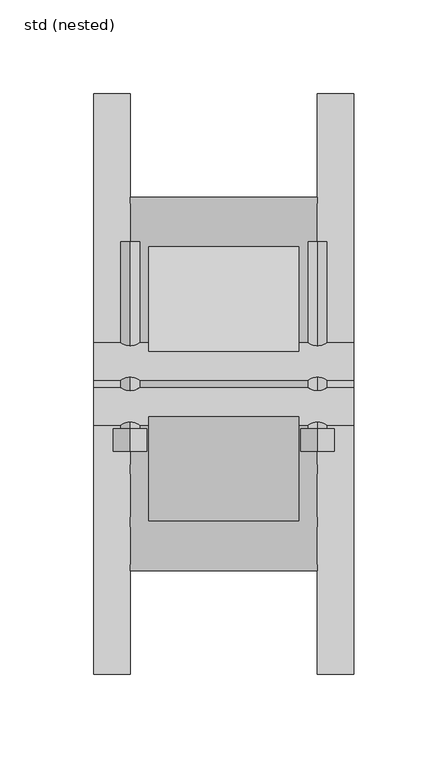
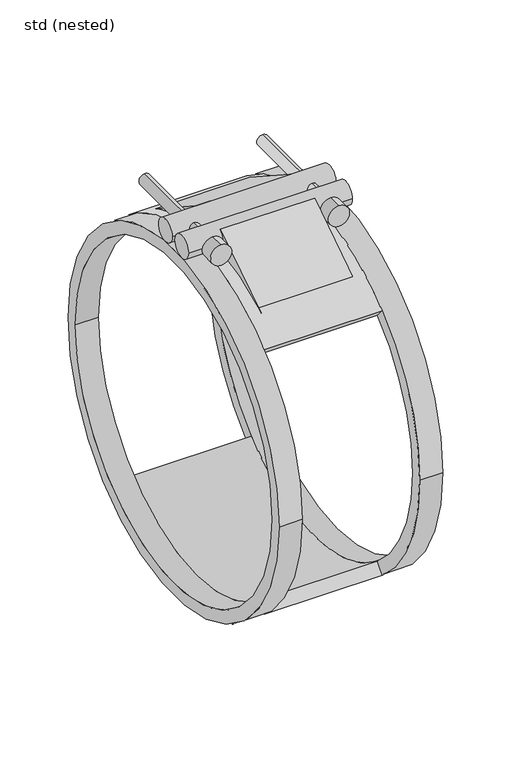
"""IFC4 building model written with IfcOpenShell, lengths in millimetres: pipe fitting geometry, ZZZ_do not use_PIF_ST_UN_GM-X universal claw_ACO : std (nested)."""

from ifc_helpers import new_model, si_unit, point, frame, frame_2d, origin, origin_2d, place, context, project, spatial, polyline, circle_curve, trimmed, segment, composite_curve, outline, extrude, source, transform, mapped, element, save
from ifc_brep_helpers import plane_surface, cylinder_surface, revolved_surface, advanced_brep


def std_nested_6f421a5c(model_context):
    return source(origin(), model_context, "Body", "SolidModel", [
        extrude(outline(composite_curve([segment(trimmed(circle_curve(frame_2d((165.0, 50.0)), 9.0), [point((156.0, 50.0))], [point((174.0, 50.0))], False, "CARTESIAN"), True, "CONTINUOUS"), segment(trimmed(circle_curve(frame_2d((165.0, 50.0)), 9.0), [point((174.0, 50.0))], [point((156.0, 50.0))], False, "CARTESIAN"), True, "CONTINUOUS")], self_intersect=False)), frame((0.0, -36.0, 0.0), z_axis=(0.0, 1.0, 0.0), x_axis=(0.0, 0.0, 1.0)), (0.0, 0.0, 1.0), 12.0),
        extrude(outline(composite_curve([segment(trimmed(circle_curve(frame_2d((165.0, 50.0)), 5.0), [point((170.0, 50.0))], [point((160.0, 50.0))], False, "CARTESIAN"), True, "CONTINUOUS"), segment(trimmed(circle_curve(frame_2d((165.0, 50.0)), 5.0), [point((160.0, 50.0))], [point((170.0, 50.0))], False, "CARTESIAN"), True, "CONTINUOUS")], self_intersect=False)), frame((0.0, -24.0, 0.0), z_axis=(0.0, 1.0, 0.0), x_axis=(0.0, 0.0, 1.0)), (0.0, 0.0, 1.0), 100.0),
        advanced_brep(
        [(-50.0, 155.0, 0.0), (-50.0, 99.6320795, 118.7368887), (-50.0, 92.6256946, 110.3870043), (-50.0, 144.1, 0.0), (-50.0, 92.6256946, -110.3870043), (-50.0, 99.6320795, -118.7368887), (-50.0, -99.6320795, 118.7368887), (-50.0, -155.0, 0.0), (-50.0, -99.6320795, -118.7368887), (-50.0, -92.6256946, -110.3870043), (-50.0, -144.1, 0.0), (-50.0, -92.6256946, 110.3870043), (-69.5, -155.0, 0.0), (-69.5, 155.0, 0.0), (-69.5, -144.1, 0.0), (-69.5, 144.1, 0.0), (69.5, -155.0, 0.0), (69.5, 155.0, 0.0), (69.5, -144.1, 0.0), (69.5, 144.1, 0.0), (50.0, 144.1, 0.0), (50.0, 92.6256946, 110.3870043), (50.0, 99.6320795, 118.7368887), (50.0, 155.0, 0.0), (50.0, 99.6320795, -118.7368887), (50.0, 92.6256946, -110.3870043), (50.0, -92.6256946, 110.3870043), (50.0, -144.1, 0.0), (50.0, -92.6256946, -110.3870043), (50.0, -99.6320795, -118.7368887), (50.0, -155.0, 0.0), (50.0, -99.6320795, 118.7368887)],
        [
            (0, 1, circle_curve(frame((-50.0, 0.0, 0.0), z_axis=(1.0, 0.0, 0.0), x_axis=(0.0, 1.0, 0.0)), 155.0)),
            (1, 2),
            (2, 3, circle_curve(frame((-50.0, 0.0, 0.0), z_axis=(-1.0, 0.0, 0.0), x_axis=(0.0, 1.0, 0.0)), 144.1)),
            (3, 4, circle_curve(frame((-50.0, 0.0, 0.0), z_axis=(-1.0, 0.0, 0.0), x_axis=(0.0, 1.0, 0.0)), 144.1)),
            (4, 5),
            (5, 0, circle_curve(frame((-50.0, 0.0, 0.0), z_axis=(1.0, 0.0, 0.0), x_axis=(0.0, 1.0, 0.0)), 155.0)),
            (6, 7, circle_curve(frame((-50.0, 0.0, 0.0), z_axis=(1.0, 0.0, 0.0), x_axis=(0.0, 1.0, 0.0)), 155.0)),
            (7, 8, circle_curve(frame((-50.0, 0.0, 0.0), z_axis=(1.0, 0.0, 0.0), x_axis=(0.0, 1.0, 0.0)), 155.0)),
            (8, 9),
            (9, 10, circle_curve(frame((-50.0, 0.0, 0.0), z_axis=(-1.0, 0.0, 0.0), x_axis=(0.0, 1.0, 0.0)), 144.1)),
            (10, 11, circle_curve(frame((-50.0, 0.0, 0.0), z_axis=(-1.0, 0.0, 0.0), x_axis=(0.0, 1.0, 0.0)), 144.1)),
            (11, 6),
            (12, 13, circle_curve(frame((-69.5, 0.0, 0.0), z_axis=(-1.0, 0.0, 0.0), x_axis=(0.0, 1.0, 0.0)), 155.0)),
            (13, 12, circle_curve(frame((-69.5, 0.0, 0.0), z_axis=(-1.0, 0.0, 0.0), x_axis=(0.0, 1.0, 0.0)), 155.0)),
            (14, 15, circle_curve(frame((-69.5, 0.0, 0.0), z_axis=(1.0, 0.0, 0.0), x_axis=(0.0, 1.0, 0.0)), 144.1)),
            (15, 14, circle_curve(frame((-69.5, 0.0, 0.0), z_axis=(1.0, 0.0, 0.0), x_axis=(0.0, 1.0, 0.0)), 144.1)),
            (13, 0),
            (5, 8, circle_curve(frame((-50.0, 0.0, 0.0), z_axis=(-1.0, 0.0, 0.0), x_axis=(0.0, 1.0, 0.0)), 155.0)),
            (7, 12),
            (6, 1, circle_curve(frame((-50.0, 0.0, 0.0), z_axis=(-1.0, 0.0, 0.0), x_axis=(0.0, 1.0, 0.0)), 155.0)),
            (15, 3),
            (2, 11, circle_curve(frame((-50.0, 0.0, 0.0), z_axis=(1.0, 0.0, 0.0), x_axis=(0.0, 1.0, 0.0)), 144.1)),
            (10, 14),
            (9, 4, circle_curve(frame((-50.0, 0.0, 0.0), z_axis=(1.0, 0.0, 0.0), x_axis=(0.0, 1.0, 0.0)), 144.1)),
            (16, 17, circle_curve(frame((69.5, 0.0, 0.0), z_axis=(1.0, 0.0, 0.0), x_axis=(0.0, 1.0, 0.0)), 155.0)),
            (17, 16, circle_curve(frame((69.5, 0.0, 0.0), z_axis=(1.0, 0.0, 0.0), x_axis=(0.0, 1.0, 0.0)), 155.0)),
            (18, 19, circle_curve(frame((69.5, 0.0, 0.0), z_axis=(-1.0, 0.0, 0.0), x_axis=(0.0, 1.0, 0.0)), 144.1)),
            (19, 18, circle_curve(frame((69.5, 0.0, 0.0), z_axis=(-1.0, 0.0, 0.0), x_axis=(0.0, 1.0, 0.0)), 144.1)),
            (20, 21, circle_curve(frame((50.0, 0.0, 0.0), z_axis=(1.0, 0.0, 0.0), x_axis=(0.0, 1.0, 0.0)), 144.1)),
            (21, 22),
            (22, 23, circle_curve(frame((50.0, 0.0, 0.0), z_axis=(-1.0, 0.0, 0.0), x_axis=(0.0, 1.0, 0.0)), 155.0)),
            (23, 24, circle_curve(frame((50.0, 0.0, 0.0), z_axis=(-1.0, 0.0, 0.0), x_axis=(0.0, 1.0, 0.0)), 155.0)),
            (24, 25),
            (25, 20, circle_curve(frame((50.0, 0.0, 0.0), z_axis=(1.0, 0.0, 0.0), x_axis=(0.0, 1.0, 0.0)), 144.1)),
            (26, 27, circle_curve(frame((50.0, 0.0, 0.0), z_axis=(1.0, 0.0, 0.0), x_axis=(0.0, 1.0, 0.0)), 144.1)),
            (27, 28, circle_curve(frame((50.0, 0.0, 0.0), z_axis=(1.0, 0.0, 0.0), x_axis=(0.0, 1.0, 0.0)), 144.1)),
            (28, 29),
            (29, 30, circle_curve(frame((50.0, 0.0, 0.0), z_axis=(-1.0, 0.0, 0.0), x_axis=(0.0, 1.0, 0.0)), 155.0)),
            (30, 31, circle_curve(frame((50.0, 0.0, 0.0), z_axis=(-1.0, 0.0, 0.0), x_axis=(0.0, 1.0, 0.0)), 155.0)),
            (31, 26),
            (18, 27),
            (26, 21, circle_curve(frame((50.0, 0.0, 0.0), z_axis=(-1.0, 0.0, 0.0), x_axis=(0.0, 1.0, 0.0)), 144.1)),
            (20, 19),
            (25, 28, circle_curve(frame((50.0, 0.0, 0.0), z_axis=(-1.0, 0.0, 0.0), x_axis=(0.0, 1.0, 0.0)), 144.1)),
            (16, 30),
            (29, 24, circle_curve(frame((50.0, 0.0, 0.0), z_axis=(1.0, 0.0, 0.0), x_axis=(0.0, 1.0, 0.0)), 155.0)),
            (23, 17),
            (22, 31, circle_curve(frame((50.0, 0.0, 0.0), z_axis=(1.0, 0.0, 0.0), x_axis=(0.0, 1.0, 0.0)), 155.0)),
            (21, 2),
            (1, 22),
            (31, 6),
            (11, 26),
            (24, 5),
            (4, 25),
            (28, 9),
            (8, 29),
        ],
        [
            plane_surface(frame((-50.0, 155.0, 0.0), z_axis=(1.0, 0.0, 0.0), x_axis=(0.0, 0.0, 1.0))),
            plane_surface(frame((-69.5, 155.0, 0.0), z_axis=(-1.0, 0.0, 0.0), x_axis=(0.0, 0.0, -1.0))),
            cylinder_surface(frame((-69.5, 0.0, 0.0), z_axis=(1.0, 0.0, 0.0), x_axis=(0.0, 1.0, 0.0)), 155.0),
            revolved_surface(polyline([(-69.5, 144.1, 0.0), (-50.0, 144.1, 0.0)]), (0.0, 0.0, 0.0), (-1.0, 0.0, 0.0)),
            plane_surface(frame((69.5, 144.1, 0.0), z_axis=(1.0, 0.0, 0.0), x_axis=(0.0, 0.0, -1.0))),
            plane_surface(frame((50.0, 144.1, 0.0), z_axis=(-1.0, 0.0, 0.0), x_axis=(0.0, 0.0, 1.0))),
            revolved_surface(polyline([(50.0, 144.1, 0.0), (69.5, 144.1, 0.0)]), (50.0, 0.0, 0.0), (-1.0, 0.0, 0.0)),
            cylinder_surface(frame((0.0, 0.0, 0.0), z_axis=(1.0, 0.0, 0.0), x_axis=(0.0, 1.0, 0.0)), 155.0),
            plane_surface(frame((-91.0901199, 0.0, 0.0), z_axis=(0.0, 0.7660444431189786, -0.6427876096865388), x_axis=(0.0, 0.6427876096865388, 0.7660444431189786))),
            plane_surface(frame((-91.0901199, 0.0, 0.0), z_axis=(0.0, -0.7660444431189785, -0.6427876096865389), x_axis=(0.0, -0.6427876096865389, 0.7660444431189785))),
            revolved_surface(polyline([(-50.0, 92.62569455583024, 110.3870042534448), (49.999999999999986, 92.62569455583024, 110.3870042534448)]), (-91.0901199, 0.0, 0.0), (-1.0, 0.0, 0.0)),
            cylinder_surface(frame((-91.0901199, 0.0, 0.0), z_axis=(-1.0, 0.0, 0.0), x_axis=(0.0, 0.6427876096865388, 0.7660444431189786)), 155.0),
            plane_surface(frame((-91.0901199, 0.0, 0.0), z_axis=(0.0, 0.7660444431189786, 0.6427876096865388), x_axis=(0.0, 0.6427876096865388, -0.7660444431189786))),
            plane_surface(frame((-91.0901199, 0.0, 0.0), z_axis=(0.0, -0.7660444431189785, 0.6427876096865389), x_axis=(0.0, -0.6427876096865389, -0.7660444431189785))),
            revolved_surface(polyline([(49.999999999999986, 92.62569455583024, -110.3870042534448), (-50.0, 92.62569455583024, -110.3870042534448)]), (-91.0901199, 0.0, 0.0), (1.0, 0.0, 0.0)),
            cylinder_surface(frame((-91.0901199, 0.0, 0.0), z_axis=(1.0, 0.0, 0.0), x_axis=(0.0, 0.6427876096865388, -0.7660444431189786)), 155.0),
        ],
        [
            (0, [[1, 2, 3, 4, 5, 6]]),
            (0, [[7, 8, 9, 10, 11, 12]]),
            (1, [[13, 14], [15, 16]]),
            (2, [[-14, 17, -6, 18, -8, 19]]),
            (2, [[-13, -19, -7, 20, -1, -17]]),
            (3, [[-16, 21, -3, 22, -11, 23]]),
            (3, [[-15, -23, -10, 24, -4, -21]]),
            (4, [[25, 26], [27, 28]]),
            (5, [[29, 30, 31, 32, 33, 34]]),
            (5, [[35, 36, 37, 38, 39, 40]]),
            (6, [[-27, 41, -35, 42, -29, 43]]),
            (6, [[-28, -43, -34, 44, -36, -41]]),
            (7, [[-25, 45, -38, 46, -32, 47]]),
            (7, [[-26, -47, -31, 48, -39, -45]]),
            (8, [[49, -2, 50, -30]]),
            (9, [[51, -12, 52, -40]]),
            (10, [[-49, -42, -52, -22]]),
            (11, [[-50, -20, -51, -48]]),
            (12, [[53, -5, 54, -33]]),
            (13, [[55, -9, 56, -37]]),
            (14, [[-54, -24, -55, -44]]),
            (15, [[-53, -46, -56, -18]]),
        ],
    ),
        extrude(outline(composite_curve([segment(trimmed(circle_curve(frame_2d((-12.0, 165.0)), 10.0), [point((-17.4614436, 173.3769107))], [point((-22.0, 165.0))], True, "CARTESIAN"), True, "CONTINUOUS"), segment(polyline([(-22.0, 165.0), (-22.0, 153.4307661)]), True, "CONTINUOUS"), segment(trimmed(circle_curve(origin_2d(), 155.0), [point((-22.0, 153.4307661))], [point((-77.5, 134.2339376))], True, "CARTESIAN"), True, "CONTINUOUS"), segment(polyline([(-77.5, 134.2339376), (-17.4614436, 173.3769107)]), True, "CONTINUOUS")], self_intersect=False)), frame((-40.0, 0.0, 0.0), z_axis=(1.0, 0.0, 0.0), x_axis=(0.0, 1.0, 0.0)), (0.0, 0.0, 1.0), 80.0),
        extrude(outline(composite_curve([segment(polyline([(17.4614436, 173.3769107), (77.5, 134.2339376)]), True, "CONTINUOUS"), segment(trimmed(circle_curve(origin_2d(), 155.0), [point((77.5, 134.2339376))], [point((22.0, 153.4307661))], True, "CARTESIAN"), True, "CONTINUOUS"), segment(polyline([(22.0, 153.4307661), (22.0, 165.0)]), True, "CONTINUOUS"), segment(trimmed(circle_curve(frame_2d((12.0, 165.0)), 10.0), [point((22.0, 165.0))], [point((17.4614436, 173.3769107))], True, "CARTESIAN"), True, "CONTINUOUS")], self_intersect=False)), frame((-40.0, 0.0, 0.0), z_axis=(1.0, 0.0, 0.0), x_axis=(0.0, 1.0, 0.0)), (0.0, 0.0, 1.0), 80.0),
        extrude(outline(composite_curve([segment(trimmed(circle_curve(frame_2d((165.0, -50.0)), 9.0), [point((174.0, -50.0))], [point((156.0, -50.0))], False, "CARTESIAN"), True, "CONTINUOUS"), segment(trimmed(circle_curve(frame_2d((165.0, -50.0)), 9.0), [point((156.0, -50.0))], [point((174.0, -50.0))], False, "CARTESIAN"), True, "CONTINUOUS")], self_intersect=False)), frame((0.0, -36.0, 0.0), z_axis=(0.0, 1.0, 0.0), x_axis=(0.0, 0.0, 1.0)), (0.0, 0.0, 1.0), 12.0),
        extrude(outline(composite_curve([segment(trimmed(circle_curve(frame_2d((165.0, -50.0)), 5.0), [point((170.0, -50.0))], [point((160.0, -50.0))], False, "CARTESIAN"), True, "CONTINUOUS"), segment(trimmed(circle_curve(frame_2d((165.0, -50.0)), 5.0), [point((160.0, -50.0))], [point((170.0, -50.0))], False, "CARTESIAN"), True, "CONTINUOUS")], self_intersect=False)), frame((0.0, -24.0, 0.0), z_axis=(0.0, 1.0, 0.0), x_axis=(0.0, 0.0, 1.0)), (0.0, 0.0, 1.0), 100.0),
        extrude(outline(composite_curve([segment(trimmed(circle_curve(frame_2d((-12.0, 165.0)), 10.0), [point((-22.0, 165.0))], [point((-2.0, 165.0))], False, "CARTESIAN"), True, "CONTINUOUS"), segment(trimmed(circle_curve(frame_2d((-12.0, 165.0)), 10.0), [point((-2.0, 165.0))], [point((-22.0, 165.0))], False, "CARTESIAN"), True, "CONTINUOUS")], self_intersect=False)), frame((-69.5, 0.0, 0.0), z_axis=(1.0, 0.0, 0.0), x_axis=(0.0, 1.0, 0.0)), (0.0, 0.0, 1.0), 139.0),
        extrude(outline(composite_curve([segment(trimmed(circle_curve(frame_2d((12.0, 165.0)), 10.0), [point((2.0, 165.0))], [point((22.0, 165.0))], False, "CARTESIAN"), True, "CONTINUOUS"), segment(trimmed(circle_curve(frame_2d((12.0, 165.0)), 10.0), [point((22.0, 165.0))], [point((2.0, 165.0))], False, "CARTESIAN"), True, "CONTINUOUS")], self_intersect=False)), frame((-69.5, 0.0, 0.0), z_axis=(1.0, 0.0, 0.0), x_axis=(0.0, 1.0, 0.0)), (0.0, 0.0, 1.0), 139.0),
    ])


if __name__ == "__main__":
    model = new_model("IFC4")
    model_context = context("Model", 3, world=origin())
    ifc_project = project(units=[si_unit("LENGTHUNIT", "METRE", prefix="MILLI")], contexts=[model_context])
    site = spatial("IfcSite", under=ifc_project)
    building = spatial("IfcBuilding", under=site)
    placement = place(None, origin())
    std_nested_shape = std_nested_6f421a5c(model_context)
    element("IfcPipeFitting", 1, ObjectType="ZZZ_do not use_PIF_ST_UN_GM-X universal claw_ACO : std (nested)", at=placement, inside=building, context=model_context, shape_type="MappedRepresentation", body=[
        mapped(std_nested_shape, transform((0.0, 0.0, 0.0), x_axis=(1.0, 0.0, 0.0), y_axis=(0.0, 1.0, 0.0), z_axis=(0.0, 0.0, 1.0))),
    ])
    save(model, "model.ifc")
